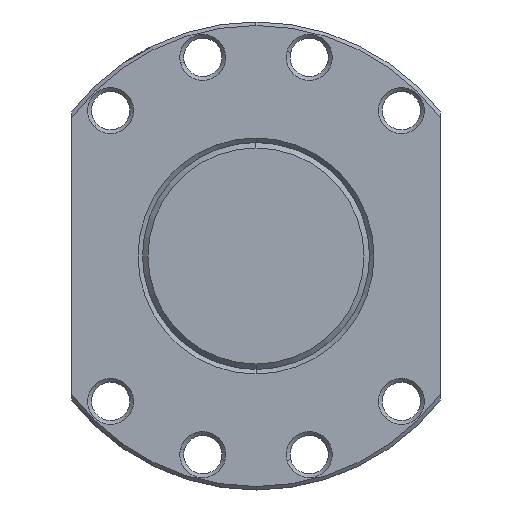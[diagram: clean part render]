
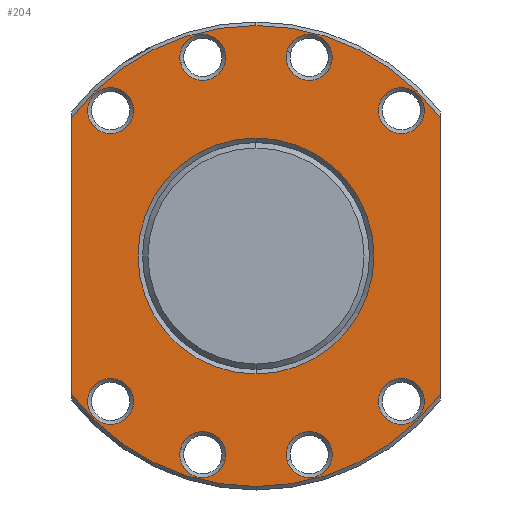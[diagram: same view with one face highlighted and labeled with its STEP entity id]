
A CAD part, left-side view. The second image highlights one B-rep face of the part: STEP entity #204.
In plain terms, the highlighted planar face has unit normal (-1, 0, 0).
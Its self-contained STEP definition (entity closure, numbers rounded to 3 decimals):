
#204=ADVANCED_FACE('',(#386,#387,#388,#389,#390,#391,#392,#393,#394,#395),#396,.T.);
#386=FACE_BOUND('',#587,.T.);
#387=FACE_OUTER_BOUND('',#588,.T.);
#388=FACE_BOUND('',#589,.T.);
#389=FACE_BOUND('',#590,.T.);
#390=FACE_BOUND('',#591,.T.);
#391=FACE_BOUND('',#592,.T.);
#392=FACE_BOUND('',#593,.T.);
#393=FACE_BOUND('',#594,.T.);
#394=FACE_BOUND('',#595,.T.);
#395=FACE_BOUND('',#596,.T.);
#396=PLANE('',#597);
#587=EDGE_LOOP('',(#1207,#1208));
#588=EDGE_LOOP('',(#1209,#1210,#1211,#1212,#1213,#1214));
#589=EDGE_LOOP('',(#1215,#1216));
#590=EDGE_LOOP('',(#1217,#1218));
#591=EDGE_LOOP('',(#1219,#1220));
#592=EDGE_LOOP('',(#1221,#1222));
#593=EDGE_LOOP('',(#1223,#1224));
#594=EDGE_LOOP('',(#1225,#1226));
#595=EDGE_LOOP('',(#1227,#1228));
#596=EDGE_LOOP('',(#1229,#1230));
#597=AXIS2_PLACEMENT_3D('',#1231,#1232,#1233);
#1207=ORIENTED_EDGE('',*,*,#1436,.T.);
#1208=ORIENTED_EDGE('',*,*,#1416,.T.);
#1209=ORIENTED_EDGE('',*,*,#1437,.T.);
#1210=ORIENTED_EDGE('',*,*,#1485,.F.);
#1211=ORIENTED_EDGE('',*,*,#1324,.F.);
#1212=ORIENTED_EDGE('',*,*,#1460,.T.);
#1213=ORIENTED_EDGE('',*,*,#1406,.F.);
#1214=ORIENTED_EDGE('',*,*,#1459,.F.);
#1215=ORIENTED_EDGE('',*,*,#1463,.T.);
#1216=ORIENTED_EDGE('',*,*,#1396,.T.);
#1217=ORIENTED_EDGE('',*,*,#1466,.T.);
#1218=ORIENTED_EDGE('',*,*,#1386,.T.);
#1219=ORIENTED_EDGE('',*,*,#1469,.T.);
#1220=ORIENTED_EDGE('',*,*,#1376,.T.);
#1221=ORIENTED_EDGE('',*,*,#1472,.T.);
#1222=ORIENTED_EDGE('',*,*,#1366,.T.);
#1223=ORIENTED_EDGE('',*,*,#1475,.T.);
#1224=ORIENTED_EDGE('',*,*,#1356,.T.);
#1225=ORIENTED_EDGE('',*,*,#1478,.T.);
#1226=ORIENTED_EDGE('',*,*,#1346,.T.);
#1227=ORIENTED_EDGE('',*,*,#1481,.T.);
#1228=ORIENTED_EDGE('',*,*,#1336,.T.);
#1229=ORIENTED_EDGE('',*,*,#1484,.T.);
#1230=ORIENTED_EDGE('',*,*,#1326,.T.);
#1231=CARTESIAN_POINT('',(25.0,0.0,40.63));
#1232=DIRECTION('',(-1.0,-0.0,0.));
#1233=DIRECTION('',(0.,0.0,-1.0));
#1324=EDGE_CURVE('',#1550,#1548,#1552,.T.);
#1326=EDGE_CURVE('',#1556,#1553,#1557,.T.);
#1336=EDGE_CURVE('',#1574,#1571,#1575,.T.);
#1346=EDGE_CURVE('',#1592,#1589,#1593,.T.);
#1356=EDGE_CURVE('',#1610,#1607,#1611,.T.);
#1366=EDGE_CURVE('',#1628,#1625,#1629,.T.);
#1376=EDGE_CURVE('',#1646,#1643,#1647,.T.);
#1386=EDGE_CURVE('',#1664,#1661,#1665,.T.);
#1396=EDGE_CURVE('',#1682,#1679,#1683,.T.);
#1406=EDGE_CURVE('',#1697,#1700,#1701,.T.);
#1416=EDGE_CURVE('',#1718,#1715,#1719,.T.);
#1436=EDGE_CURVE('',#1715,#1718,#1749,.T.);
#1437=EDGE_CURVE('',#1750,#1751,#1752,.T.);
#1459=EDGE_CURVE('',#1750,#1697,#1780,.T.);
#1460=EDGE_CURVE('',#1550,#1700,#1781,.T.);
#1463=EDGE_CURVE('',#1679,#1682,#1784,.T.);
#1466=EDGE_CURVE('',#1661,#1664,#1787,.T.);
#1469=EDGE_CURVE('',#1643,#1646,#1790,.T.);
#1472=EDGE_CURVE('',#1625,#1628,#1793,.T.);
#1475=EDGE_CURVE('',#1607,#1610,#1796,.T.);
#1478=EDGE_CURVE('',#1589,#1592,#1799,.T.);
#1481=EDGE_CURVE('',#1571,#1574,#1802,.T.);
#1484=EDGE_CURVE('',#1553,#1556,#1805,.T.);
#1485=EDGE_CURVE('',#1548,#1751,#1806,.T.);
#1548=VERTEX_POINT('',#1893);
#1550=VERTEX_POINT('',#1896);
#1552=CIRCLE('',#1907,81.26);
#1553=VERTEX_POINT('',#1908);
#1556=VERTEX_POINT('',#1912);
#1557=CIRCLE('',#1913,8.1);
#1571=VERTEX_POINT('',#1932);
#1574=VERTEX_POINT('',#1936);
#1575=CIRCLE('',#1937,8.1);
#1589=VERTEX_POINT('',#1956);
#1592=VERTEX_POINT('',#1960);
#1593=CIRCLE('',#1961,8.1);
#1607=VERTEX_POINT('',#1980);
#1610=VERTEX_POINT('',#1984);
#1611=CIRCLE('',#1985,8.1);
#1625=VERTEX_POINT('',#2004);
#1628=VERTEX_POINT('',#2008);
#1629=CIRCLE('',#2009,8.1);
#1643=VERTEX_POINT('',#2028);
#1646=VERTEX_POINT('',#2032);
#1647=CIRCLE('',#2033,8.1);
#1661=VERTEX_POINT('',#2052);
#1664=VERTEX_POINT('',#2056);
#1665=CIRCLE('',#2057,8.1);
#1679=VERTEX_POINT('',#2076);
#1682=VERTEX_POINT('',#2080);
#1683=CIRCLE('',#2081,8.1);
#1697=VERTEX_POINT('',#2100);
#1700=VERTEX_POINT('',#2104);
#1701=CIRCLE('',#2105,81.26);
#1715=VERTEX_POINT('',#2140);
#1718=VERTEX_POINT('',#2144);
#1719=CIRCLE('',#2145,41.6);
#1749=CIRCLE('',#2251,41.6);
#1750=VERTEX_POINT('',#2252);
#1751=VERTEX_POINT('',#2253);
#1752=LINE('',#2254,#2255);
#1780=CIRCLE('',#2323,81.26);
#1781=LINE('',#2324,#2325);
#1784=CIRCLE('',#2328,8.1);
#1787=CIRCLE('',#2331,8.1);
#1790=CIRCLE('',#2334,8.1);
#1793=CIRCLE('',#2337,8.1);
#1796=CIRCLE('',#2340,8.1);
#1799=CIRCLE('',#2343,8.1);
#1802=CIRCLE('',#2346,8.1);
#1805=CIRCLE('',#2349,8.1);
#1806=CIRCLE('',#2350,81.26);
#1893=CARTESIAN_POINT('',(25.0,0.,-81.26));
#1896=CARTESIAN_POINT('',(25.0,-65.0,-48.767));
#1907=AXIS2_PLACEMENT_3D('',#2421,#2422,#2423);
#1908=CARTESIAN_POINT('',(25.0,-45.538,56.993));
#1912=CARTESIAN_POINT('',(25.0,-56.993,45.538));
#1913=AXIS2_PLACEMENT_3D('',#2425,#2426,#2427);
#1932=CARTESIAN_POINT('',(25.0,-10.94,72.126));
#1936=CARTESIAN_POINT('',(25.0,-26.588,67.933));
#1937=AXIS2_PLACEMENT_3D('',#2443,#2444,#2445);
#1956=CARTESIAN_POINT('',(25.0,26.588,67.933));
#1960=CARTESIAN_POINT('',(25.0,10.94,72.126));
#1961=AXIS2_PLACEMENT_3D('',#2461,#2462,#2463);
#1980=CARTESIAN_POINT('',(25.0,56.993,45.538));
#1984=CARTESIAN_POINT('',(25.0,45.538,56.993));
#1985=AXIS2_PLACEMENT_3D('',#2479,#2480,#2481);
#2004=CARTESIAN_POINT('',(25.0,45.538,-56.993));
#2008=CARTESIAN_POINT('',(25.0,56.993,-45.538));
#2009=AXIS2_PLACEMENT_3D('',#2497,#2498,#2499);
#2028=CARTESIAN_POINT('',(25.0,10.94,-72.126));
#2032=CARTESIAN_POINT('',(25.0,26.588,-67.933));
#2033=AXIS2_PLACEMENT_3D('',#2515,#2516,#2517);
#2052=CARTESIAN_POINT('',(25.0,-26.588,-67.933));
#2056=CARTESIAN_POINT('',(25.0,-10.94,-72.126));
#2057=AXIS2_PLACEMENT_3D('',#2533,#2534,#2535);
#2076=CARTESIAN_POINT('',(25.0,-56.993,-45.538));
#2080=CARTESIAN_POINT('',(25.0,-45.538,-56.993));
#2081=AXIS2_PLACEMENT_3D('',#2551,#2552,#2553);
#2100=CARTESIAN_POINT('',(25.0,0.,81.26));
#2104=CARTESIAN_POINT('',(25.0,-65.0,48.767));
#2105=AXIS2_PLACEMENT_3D('',#2569,#2570,#2571);
#2140=CARTESIAN_POINT('',(25.0,0.0,41.6));
#2144=CARTESIAN_POINT('',(25.0,0.,-41.6));
#2145=AXIS2_PLACEMENT_3D('',#2585,#2586,#2587);
#2251=AXIS2_PLACEMENT_3D('',#2621,#2622,#2623);
#2252=CARTESIAN_POINT('',(25.0,65.0,48.767));
#2253=CARTESIAN_POINT('',(25.0,65.0,-48.767));
#2254=CARTESIAN_POINT('',(25.0,65.0,20.315));
#2255=VECTOR('',#2624,1.0);
#2323=AXIS2_PLACEMENT_3D('',#2668,#2669,#2670);
#2324=CARTESIAN_POINT('',(25.0,-65.0,20.315));
#2325=VECTOR('',#2671,1.0);
#2328=AXIS2_PLACEMENT_3D('',#2678,#2679,#2680);
#2331=AXIS2_PLACEMENT_3D('',#2687,#2688,#2689);
#2334=AXIS2_PLACEMENT_3D('',#2696,#2697,#2698);
#2337=AXIS2_PLACEMENT_3D('',#2705,#2706,#2707);
#2340=AXIS2_PLACEMENT_3D('',#2714,#2715,#2716);
#2343=AXIS2_PLACEMENT_3D('',#2723,#2724,#2725);
#2346=AXIS2_PLACEMENT_3D('',#2732,#2733,#2734);
#2349=AXIS2_PLACEMENT_3D('',#2741,#2742,#2743);
#2350=AXIS2_PLACEMENT_3D('',#2744,#2745,#2746);
#2421=CARTESIAN_POINT('',(25.0,0.0,0.0));
#2422=DIRECTION('',(1.0,0.0,-0.0));
#2423=DIRECTION('',(0.0,0.0,1.0));
#2425=CARTESIAN_POINT('',(25.0,-51.265,51.265));
#2426=DIRECTION('',(1.0,0.0,0.));
#2427=DIRECTION('',(0.,0.707,0.707));
#2443=CARTESIAN_POINT('',(25.0,-18.764,70.03));
#2444=DIRECTION('',(1.0,0.0,0.));
#2445=DIRECTION('',(0.,0.966,0.259));
#2461=CARTESIAN_POINT('',(25.0,18.764,70.03));
#2462=DIRECTION('',(1.0,0.0,0.));
#2463=DIRECTION('',(0.,0.966,-0.259));
#2479=CARTESIAN_POINT('',(25.0,51.265,51.265));
#2480=DIRECTION('',(1.0,0.0,0.));
#2481=DIRECTION('',(0.,0.707,-0.707));
#2497=CARTESIAN_POINT('',(25.0,51.265,-51.265));
#2498=DIRECTION('',(1.0,0.0,0.));
#2499=DIRECTION('',(0.,-0.707,-0.707));
#2515=CARTESIAN_POINT('',(25.0,18.764,-70.03));
#2516=DIRECTION('',(1.0,0.0,0.));
#2517=DIRECTION('',(0.,-0.966,-0.259));
#2533=CARTESIAN_POINT('',(25.0,-18.764,-70.03));
#2534=DIRECTION('',(1.0,0.0,0.));
#2535=DIRECTION('',(0.,-0.966,0.259));
#2551=CARTESIAN_POINT('',(25.0,-51.265,-51.265));
#2552=DIRECTION('',(1.0,0.0,0.));
#2553=DIRECTION('',(0.,-0.707,0.707));
#2569=CARTESIAN_POINT('',(25.0,0.0,0.0));
#2570=DIRECTION('',(1.0,0.0,-0.0));
#2571=DIRECTION('',(0.0,0.0,1.0));
#2585=CARTESIAN_POINT('',(25.0,0.0,0.0));
#2586=DIRECTION('',(1.0,0.0,0.));
#2587=DIRECTION('',(0.,0.0,1.0));
#2621=CARTESIAN_POINT('',(25.0,0.0,0.0));
#2622=DIRECTION('',(1.0,0.0,0.));
#2623=DIRECTION('',(0.,0.0,1.0));
#2624=DIRECTION('',(0.,0.0,-1.0));
#2668=CARTESIAN_POINT('',(25.0,0.0,0.0));
#2669=DIRECTION('',(1.0,0.0,-0.0));
#2670=DIRECTION('',(0.0,0.0,1.0));
#2671=DIRECTION('',(0.,0.0,1.0));
#2678=CARTESIAN_POINT('',(25.0,-51.265,-51.265));
#2679=DIRECTION('',(1.0,0.0,0.));
#2680=DIRECTION('',(0.,-0.707,0.707));
#2687=CARTESIAN_POINT('',(25.0,-18.764,-70.03));
#2688=DIRECTION('',(1.0,0.0,0.));
#2689=DIRECTION('',(0.,-0.966,0.259));
#2696=CARTESIAN_POINT('',(25.0,18.764,-70.03));
#2697=DIRECTION('',(1.0,0.0,0.));
#2698=DIRECTION('',(0.,-0.966,-0.259));
#2705=CARTESIAN_POINT('',(25.0,51.265,-51.265));
#2706=DIRECTION('',(1.0,0.0,0.));
#2707=DIRECTION('',(0.,-0.707,-0.707));
#2714=CARTESIAN_POINT('',(25.0,51.265,51.265));
#2715=DIRECTION('',(1.0,0.0,0.));
#2716=DIRECTION('',(0.,0.707,-0.707));
#2723=CARTESIAN_POINT('',(25.0,18.764,70.03));
#2724=DIRECTION('',(1.0,0.0,0.));
#2725=DIRECTION('',(0.,0.966,-0.259));
#2732=CARTESIAN_POINT('',(25.0,-18.764,70.03));
#2733=DIRECTION('',(1.0,0.0,0.));
#2734=DIRECTION('',(0.,0.966,0.259));
#2741=CARTESIAN_POINT('',(25.0,-51.265,51.265));
#2742=DIRECTION('',(1.0,0.0,0.));
#2743=DIRECTION('',(0.,0.707,0.707));
#2744=CARTESIAN_POINT('',(25.0,0.0,0.0));
#2745=DIRECTION('',(1.0,0.0,-0.0));
#2746=DIRECTION('',(0.0,0.0,1.0));
